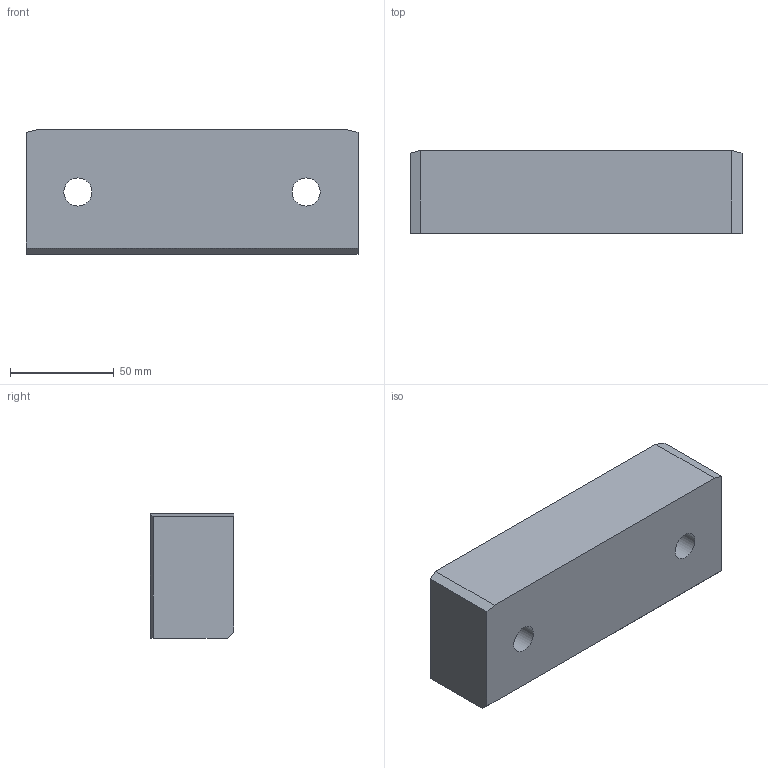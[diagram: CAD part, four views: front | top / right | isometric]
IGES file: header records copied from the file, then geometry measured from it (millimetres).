
Start section: Data from Parasolid IGES Translator 20.0.26, Copyright(c) 2006 Siemens P LM Software. All Rights Reserved.
Global section: file name: G224-12-040-160.igs; native system: By Siemens PLM Incorporated; preprocessor: XPlus GENERIC/IGES 20.0.26; author: Noname; organization: Noname; date: 20190709.085237; units: millimetre
Bounding box: 160 x 40 x 60 mm (x, y, z)
Surface area: 39604.8 mm2 (no closed solid volume)
Topology: 0 solids, 0 shells, 17 faces, 74 edges, 70 vertices
Faces by surface type: extrusion 13, revolution 4
